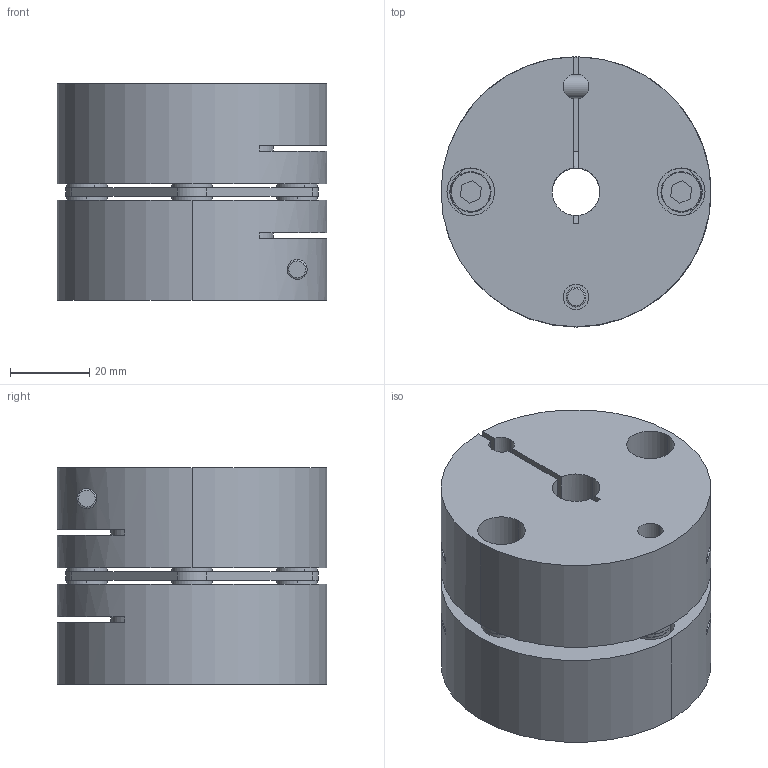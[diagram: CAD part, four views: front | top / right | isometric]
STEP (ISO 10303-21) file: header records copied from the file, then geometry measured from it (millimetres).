
FILE_DESCRIPTION (( 'STEP AP214' ), '1' );
FILE_NAME ('LC-G-060SA-12B-12B.STEP', '2019-09-16T02:52:34', ( 'admin' ), ( 'Microsoft' ), 'SwSTEP 2.0', 'SolidWorks 2016', '' );
FILE_SCHEMA (( 'AUTOMOTIVE_DESIGN' ));
Length unit declared in the file: millimetre
Products named in the file (1): LC-G-060SA-12B-12B
Bounding box: 68 x 68 x 54.5 mm (x, y, z)
Volume: 161722.4 mm3; surface area: 48736.1 mm2
Topology: 17 solids, 17 shells, 283 faces, 677 edges, 438 vertices
Faces by surface type: cylinder 135, plane 112, torus 24, cone 12
Entity records: 12216 total; most frequent: CARTESIAN_POINT 1935, DIRECTION 1559, ORIENTED_EDGE 1354, EDGE_CURVE 677, AXIS2_PLACEMENT_3D 618, VERTEX_POINT 438, EDGE_LOOP 355, CIRCLE 334
